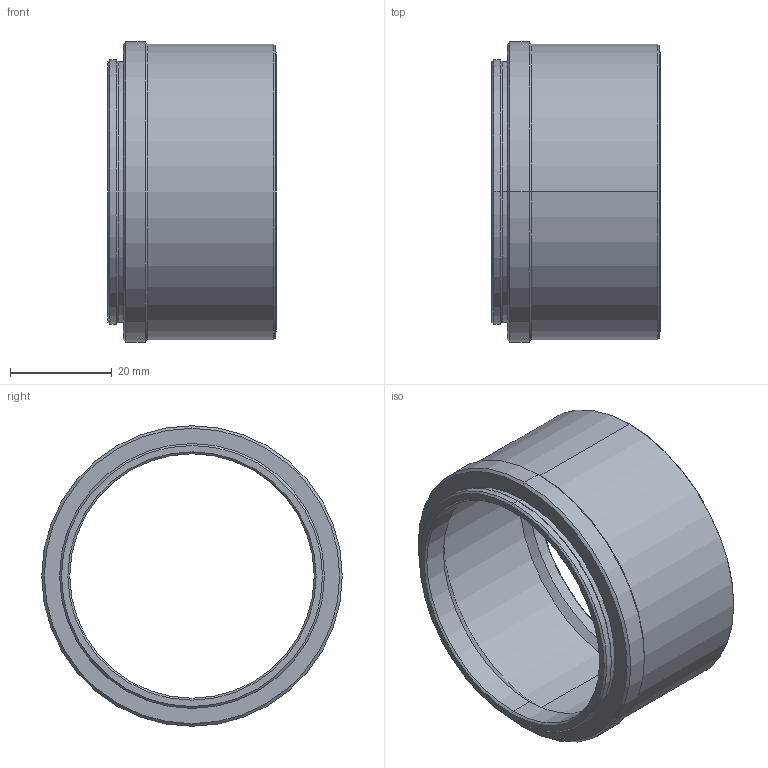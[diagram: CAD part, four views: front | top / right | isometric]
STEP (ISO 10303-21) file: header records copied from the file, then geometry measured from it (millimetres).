
FILE_DESCRIPTION (( 'STEP AP203' ), '1' );
FILE_NAME ('VS-EXR30_M52.STEP', '2016-06-08T08:09:36', ( 'miura_vst' ), ( '' ), 'SwSTEP 2.0', 'SolidWorks 2016', '' );
FILE_SCHEMA (( 'CONFIG_CONTROL_DESIGN' ));
Length unit declared in the file: millimetre
Products named in the file (1): VS-EXR30_M52
Bounding box: 33 x 59 x 59 mm (x, y, z)
Volume: 14178 mm3; surface area: 13133.7 mm2
Topology: 1 solids, 1 shells, 38 faces, 76 edges, 42 vertices
Faces by surface type: cone 20, cylinder 14, plane 4
Entity records: 1055 total; most frequent: DIRECTION 196, CARTESIAN_POINT 157, ORIENTED_EDGE 152, AXIS2_PLACEMENT_3D 81, EDGE_CURVE 76, EDGE_LOOP 42, CIRCLE 42, VERTEX_POINT 42
